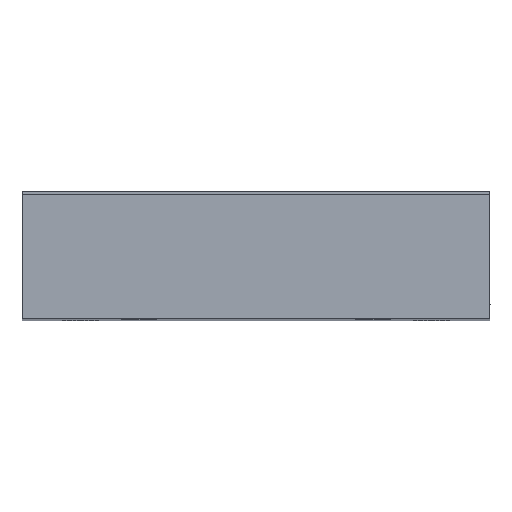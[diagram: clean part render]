
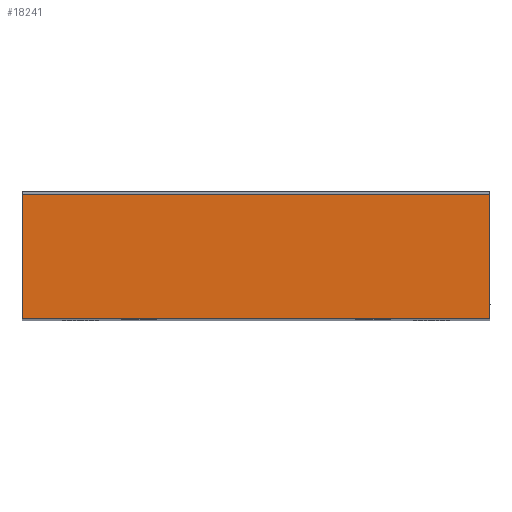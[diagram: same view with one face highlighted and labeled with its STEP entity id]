
A CAD part, top view. The second image highlights one B-rep face of the part: STEP entity #18241.
In plain terms, the highlighted planar face has unit normal (0, 0, 1).
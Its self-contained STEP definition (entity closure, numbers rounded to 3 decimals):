
#173 = EDGE_CURVE ( 'NONE', #4671, #30342, #13059, .T. ) ;
#2034 = VERTEX_POINT ( 'NONE', #13902 ) ;
#3665 = CARTESIAN_POINT ( 'NONE',  ( 30., 6., 75. ) ) ;
#4014 = CARTESIAN_POINT ( 'NONE',  ( -30., 6., 75. ) ) ;
#4671 = VERTEX_POINT ( 'NONE', #22669 ) ;
#5083 = CARTESIAN_POINT ( 'NONE',  ( 30., 0., 75. ) ) ;
#8500 = DIRECTION ( 'NONE',  ( 0., -1., 0. ) ) ;
#8545 = EDGE_LOOP ( 'NONE', ( #16353, #30010, #28700, #21266 ) ) ;
#8599 = DIRECTION ( 'NONE',  ( 1., 0., 0. ) ) ;
#10137 = CARTESIAN_POINT ( 'NONE',  ( -30., 0., 75. ) ) ;
#10211 = LINE ( 'NONE', #30050, #23816 ) ;
#10939 = PLANE ( 'NONE',  #23839 ) ;
#10970 = EDGE_CURVE ( 'NONE', #2034, #30243, #23709, .T. ) ;
#13059 = LINE ( 'NONE', #4014, #15306 ) ;
#13462 = DIRECTION ( 'NONE',  ( -1., 0., 0. ) ) ;
#13902 = CARTESIAN_POINT ( 'NONE',  ( 30., 16., 75. ) ) ;
#15306 = VECTOR ( 'NONE', #23339, 1000. ) ;
#16353 = ORIENTED_EDGE ( 'NONE', *, *, #28959, .T. ) ;
#16714 = LINE ( 'NONE', #22373, #18227 ) ;
#18227 = VECTOR ( 'NONE', #29555, 1000. ) ;
#18241 = ADVANCED_FACE ( 'NONE', ( #29116 ), #10939, .F. ) ;
#18274 = EDGE_CURVE ( 'NONE', #4671, #2034, #10211, .T. ) ;
#21266 = ORIENTED_EDGE ( 'NONE', *, *, #173, .T. ) ;
#22373 = CARTESIAN_POINT ( 'NONE',  ( 30., 0., 75. ) ) ;
#22669 = CARTESIAN_POINT ( 'NONE',  ( -30., 16., 75. ) ) ;
#22986 = CARTESIAN_POINT ( 'NONE',  ( 30., 6., 75. ) ) ;
#23295 = DIRECTION ( 'NONE',  ( 0., 0., -1. ) ) ;
#23315 = VECTOR ( 'NONE', #8500, 1000. ) ;
#23339 = DIRECTION ( 'NONE',  ( 0., -1., 0. ) ) ;
#23709 = LINE ( 'NONE', #3665, #23315 ) ;
#23816 = VECTOR ( 'NONE', #8599, 1000. ) ;
#23839 = AXIS2_PLACEMENT_3D ( 'NONE', #22986, #23295, #13462 ) ;
#28700 = ORIENTED_EDGE ( 'NONE', *, *, #18274, .F. ) ;
#28959 = EDGE_CURVE ( 'NONE', #30342, #30243, #16714, .T. ) ;
#29116 = FACE_OUTER_BOUND ( 'NONE', #8545, .T. ) ;
#29555 = DIRECTION ( 'NONE',  ( 1., 0., 0. ) ) ;
#30010 = ORIENTED_EDGE ( 'NONE', *, *, #10970, .F. ) ;
#30050 = CARTESIAN_POINT ( 'NONE',  ( -30., 16., 75. ) ) ;
#30243 = VERTEX_POINT ( 'NONE', #5083 ) ;
#30342 = VERTEX_POINT ( 'NONE', #10137 ) ;
